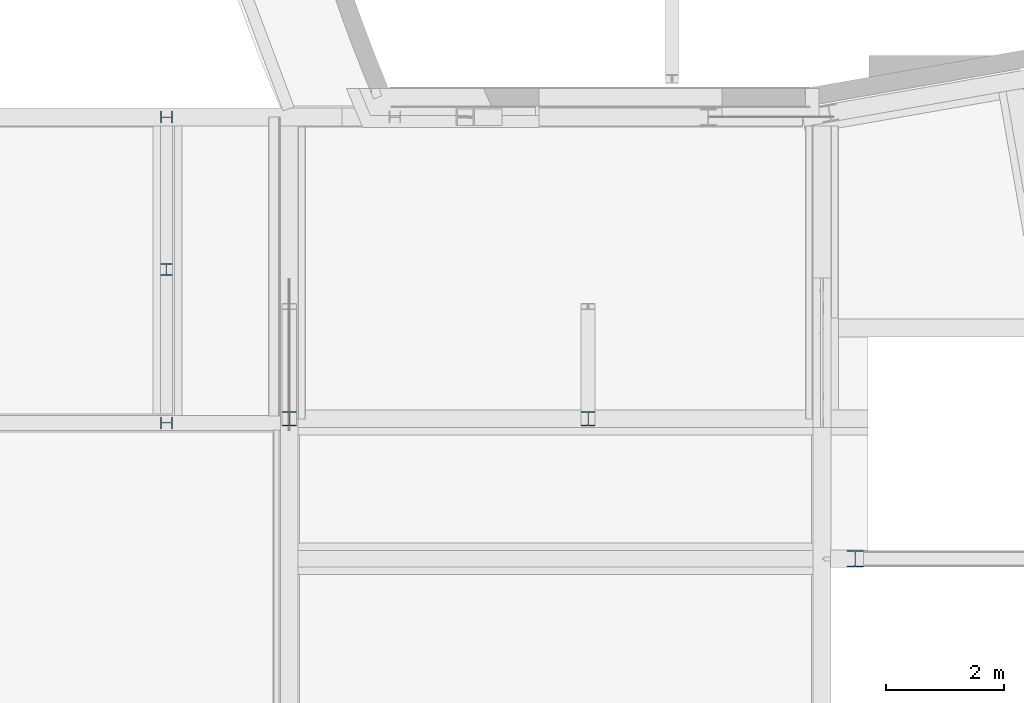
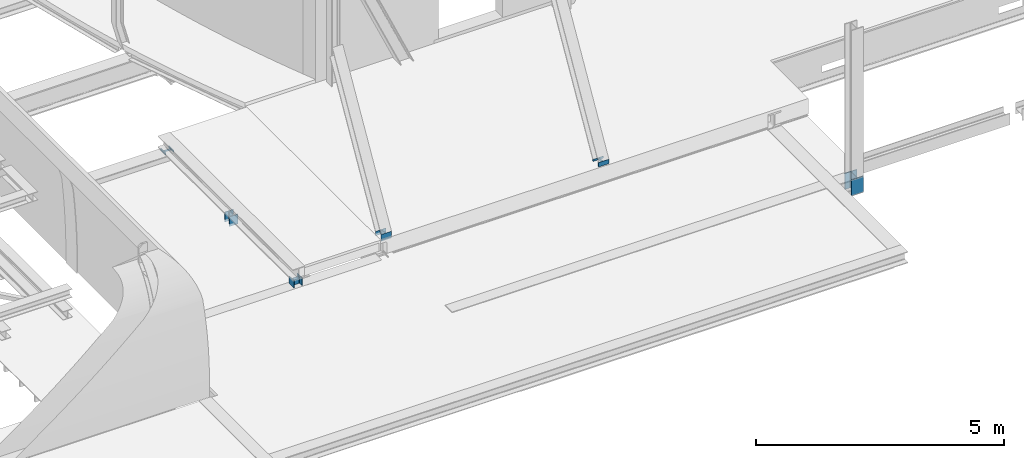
# One storey, part 8 of 38: 6 columns.
"""IFC2X3 building model written with IfcOpenShell, lengths in millimetres."""

from ifc_helpers import new_model, entity, si_unit, converted_unit, derived_unit, direction, frame, frame_2d, origin, place, context, subcontext, project, spatial, polyline, circle_curve, parameter, trimmed, segment, composite_curve, i_section, outline, extrude, clip, halfspace, source, transform, mapped, material, type_object, type_shapes, element, save


model = new_model("IFC2X3")

# Units and contexts
model_context = context("Model", 3, precision=0.01, world=origin(), true_north=direction((6.12303176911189e-17, 1.0)))
body_context = subcontext(model_context, "Body", "Model", "MODEL_VIEW")
ifc_project = project(units=[si_unit("LENGTHUNIT", "METRE", prefix="MILLI"), si_unit("AREAUNIT", "SQUARE_METRE", prefix="MILLI"), si_unit("VOLUMEUNIT", "CUBIC_METRE"), converted_unit("PLANEANGLEUNIT", "DEGREE", entity("IfcRatioMeasure", 0.0174532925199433), si_unit("PLANEANGLEUNIT", "RADIAN"), dimensions=[0, 0, 0, 0, 0, 0, 0]), si_unit("MASSUNIT", "GRAM", prefix="KILO"), derived_unit("MASSDENSITYUNIT", [(si_unit("MASSUNIT", "GRAM", prefix="KILO"), 1), (si_unit("LENGTHUNIT", "METRE"), -3)]), derived_unit("MOMENTOFINERTIAUNIT", [(si_unit("LENGTHUNIT", "METRE"), 4)]), si_unit("TIMEUNIT", "SECOND"), si_unit("FREQUENCYUNIT", "HERTZ"), si_unit("THERMODYNAMICTEMPERATUREUNIT", "DEGREE_CELSIUS"), derived_unit("THERMALTRANSMITTANCEUNIT", [(si_unit("MASSUNIT", "GRAM", prefix="KILO"), 1), (si_unit("THERMODYNAMICTEMPERATUREUNIT", "KELVIN"), -1), (si_unit("TIMEUNIT", "SECOND"), -3)]), derived_unit("VOLUMETRICFLOWRATEUNIT", [(si_unit("LENGTHUNIT", "METRE"), 3), (si_unit("TIMEUNIT", "SECOND"), -1)]), si_unit("ELECTRICCURRENTUNIT", "AMPERE"), si_unit("ELECTRICVOLTAGEUNIT", "VOLT"), si_unit("POWERUNIT", "WATT"), si_unit("FORCEUNIT", "NEWTON", prefix="KILO"), si_unit("ILLUMINANCEUNIT", "LUX"), si_unit("LUMINOUSFLUXUNIT", "LUMEN"), si_unit("LUMINOUSINTENSITYUNIT", "CANDELA"), derived_unit("USERDEFINED", [(si_unit("MASSUNIT", "GRAM", prefix="KILO"), -1), (si_unit("LENGTHUNIT", "METRE"), -2), (si_unit("TIMEUNIT", "SECOND"), 3), (si_unit("LUMINOUSFLUXUNIT", "LUMEN"), 1)]), derived_unit("LINEARVELOCITYUNIT", [(si_unit("LENGTHUNIT", "METRE"), 1), (si_unit("TIMEUNIT", "SECOND"), -1)]), si_unit("PRESSUREUNIT", "PASCAL"), derived_unit("USERDEFINED", [(si_unit("LENGTHUNIT", "METRE"), -2), (si_unit("MASSUNIT", "GRAM", prefix="KILO"), 1), (si_unit("TIMEUNIT", "SECOND"), -2)]), derived_unit("LINEARFORCEUNIT", [(si_unit("MASSUNIT", "GRAM", prefix="KILO"), 1), (si_unit("LENGTHUNIT", "METRE"), 1), (si_unit("TIMEUNIT", "SECOND"), -2), (si_unit("LENGTHUNIT", "METRE"), -1)]), derived_unit("PLANARFORCEUNIT", [(si_unit("MASSUNIT", "GRAM", prefix="KILO"), 1), (si_unit("LENGTHUNIT", "METRE"), 1), (si_unit("TIMEUNIT", "SECOND"), -2), (si_unit("LENGTHUNIT", "METRE"), -2)])], contexts=[model_context])

# Site, building, storey
site_placement = place(None, origin())
site = spatial("IfcSite", under=ifc_project, at=site_placement, Name="Theater aan de Parade", CompositionType="ELEMENT")
building_placement = place(site_placement, origin())
building = spatial("IfcBuilding", under=site, at=building_placement, Name="Theater aan de Parade", CompositionType="ELEMENT")
storey_placement = place(building_placement, frame((0.0, 0.0, 12480.0)))
storey = spatial("IfcBuildingStorey", under=building, at=storey_placement, Name="03 derde verdieping", CompositionType="ELEMENT", Elevation=12480.0)

# Columns
ifc_material = material(Name="00_PBT_MAT_staal_S355")
column_type_1 = type_object("IfcColumnType", Name="28_PBT_SC_staal_H-profiel:S355_HE200B", PredefinedType="COLUMN", material=ifc_material)
shared_shape_1 = source(origin(), body_context, "Body", "SweptSolid", [
    extrude(i_section(OverallWidth=199.999999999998, OverallDepth=200.000000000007, WebThickness=9.00000000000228, FlangeThickness=14.9999999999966, FilletRadius=17.9999999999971, at=frame_2d((-6.50146603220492e-12, 0.0), x_axis=(1.0, 0.0))), frame((40762.74392317, 20445.0, 12275.0), z_axis=(0.0, 0.0, 1.0), x_axis=(0.0, -1.0, 0.0)), (0.0, 0.0, 1.0), 44.9999999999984),
])
type_shapes(column_type_1, [shared_shape_1])
column_1_placement = place(storey_placement, frame((0.0, 0.0, -12480.0)))
element("IfcColumn", 1, at=column_1_placement, inside=storey, type_object=column_type_1, material=ifc_material, Name="28_PBT_SC_staal_H-profiel:S355_HE200B", ObjectType="28_PBT_SC_staal_H-profiel:S355_HE200B", context=body_context, shape_type="MappedRepresentation", body=[
    mapped(shared_shape_1, transform((0.0, 0.0, 0.0), scale=1.0)),
])
column_type_2 = type_object("IfcColumnType", Name="28_PBT_SC_staal_H-profiel:S355_HE200B", PredefinedType="COLUMN", material=ifc_material)
shared_shape_2 = source(origin(), body_context, "Body", "SweptSolid", [
    extrude(i_section(OverallWidth=200.0, OverallDepth=200.000000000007, WebThickness=9.00000000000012, FlangeThickness=14.9999999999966, FilletRadius=17.9999999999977, at=frame_2d((3.24718030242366e-12, 0.0), x_axis=(1.0, 0.0))), frame((40762.74392317, 15259.4841107, 12140.0), z_axis=(0.0, 0.0, 1.0), x_axis=(0.0, -1.0, 0.0)), (0.0, 0.0, 1.0), 180.0),
])
type_shapes(column_type_2, [shared_shape_2])
column_2_placement = place(storey_placement, frame((0.0, 0.0, -12480.0)))
element("IfcColumn", 2, at=column_2_placement, inside=storey, type_object=column_type_2, material=ifc_material, Name="28_PBT_SC_staal_H-profiel:S355_HE200B", ObjectType="28_PBT_SC_staal_H-profiel:S355_HE200B", context=body_context, shape_type="MappedRepresentation", body=[
    mapped(shared_shape_2, transform((0.0, 0.0, 0.0), scale=1.0)),
])
column_type_3 = type_object("IfcColumnType", Name="28_PBT_SC_staal_H-profiel:S355_HE240B", PredefinedType="COLUMN", material=ifc_material)
shared_shape_3 = source(origin(), body_context, "Body", "Clipping", [
    clip(extrude(outline(composite_curve([segment(polyline([(103.0, -120.0), (120.0, -120.0)]), True, "CONTINUOUS"), segment(polyline([(120.0, -120.0), (120.0, 120.0)]), True, "CONTINUOUS"), segment(polyline([(120.0, 120.0), (103.0, 120.0)]), True, "CONTINUOUS"), segment(polyline([(103.0, 120.0), (103.0, 26.0)]), True, "CONTINUOUS"), segment(trimmed(circle_curve(frame_2d((82.0, 26.0), x_axis=(1.0, 0.0)), 21.0000000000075), [parameter(270.000000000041)], [parameter(0.0)], True, "PARAMETER"), False, "CONTINUOUS"), segment(polyline([(82.0, 5.0), (-82.0, 5.0)]), True, "CONTINUOUS"), segment(trimmed(circle_curve(frame_2d((-82.0, 26.0), x_axis=(0.0, -1.0)), 21.0000000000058), [parameter(270.000000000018)], [parameter(0.0)], True, "PARAMETER"), False, "CONTINUOUS"), segment(polyline([(-103.0, 26.0), (-103.0, 120.0)]), True, "CONTINUOUS"), segment(polyline([(-103.0, 120.0), (-120.0, 120.0)]), True, "CONTINUOUS"), segment(polyline([(-120.0, 120.0), (-120.0, -120.0)]), True, "CONTINUOUS"), segment(polyline([(-120.0, -120.0), (-103.0, -120.0)]), True, "CONTINUOUS"), segment(polyline([(-103.0, -120.0), (-103.0, -26.0)]), True, "CONTINUOUS"), segment(trimmed(circle_curve(frame_2d((-82.0, -26.0), x_axis=(-1.0, 0.0)), 21.0000000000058), [parameter(270.000000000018)], [parameter(0.0)], True, "PARAMETER"), False, "CONTINUOUS"), segment(polyline([(-82.0, -5.0), (82.0, -5.0)]), True, "CONTINUOUS"), segment(trimmed(circle_curve(frame_2d((82.0, -26.0), x_axis=(0.0, 1.0)), 21.0000000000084), [parameter(270.000000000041)], [parameter(0.0)], True, "PARAMETER"), False, "CONTINUOUS"), segment(polyline([(103.0, -26.0), (103.0, -120.0)]), True, "CONTINUOUS")], self_intersect=False)), frame((47911.2389750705, 15329.4841107, 12600.0), z_axis=(0.0, 0.0, 1.0), x_axis=(0.0, -1.0, 0.0)), (0.0, 0.0, 1.0), 106.243494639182), halfspace(frame((48435.3055298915, 15209.4841107, 12706.2434946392), z_axis=(0.0, 0.25881904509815, 0.965925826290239), x_axis=(0.0, -0.965925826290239, 0.25881904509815)), False)),
])
type_shapes(column_type_3, [shared_shape_3])
column_3_placement = place(storey_placement, frame((0.0, 0.0, -12480.0)))
element("IfcColumn", 3, at=column_3_placement, inside=storey, type_object=column_type_3, material=ifc_material, Name="28_PBT_SC_staal_H-profiel:S355_HE240B", ObjectType="28_PBT_SC_staal_H-profiel:S355_HE240B", context=body_context, shape_type="MappedRepresentation", body=[
    mapped(shared_shape_3, transform((0.0, 0.0, 0.0), scale=1.0)),
])
column_type_4 = type_object("IfcColumnType", Name="28_PBT_SC_staal_H-profiel:S355_HE280B", PredefinedType="COLUMN", material=ifc_material)
shared_shape_4 = source(origin(), body_context, "Body", "SweptSolid", [
    extrude(outline(composite_curve([segment(polyline([(122.0, -140.0), (140.0, -140.0)]), True, "CONTINUOUS"), segment(polyline([(140.0, -140.0), (140.0, 140.0)]), True, "CONTINUOUS"), segment(polyline([(140.0, 140.0), (122.0, 140.0)]), True, "CONTINUOUS"), segment(polyline([(122.0, 140.0), (122.0, 29.25)]), True, "CONTINUOUS"), segment(trimmed(circle_curve(frame_2d((98.0, 29.2500000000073), x_axis=(1.0, 0.0)), 24.0000000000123), [parameter(270.000000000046)], [parameter(0.0)], True, "PARAMETER"), False, "CONTINUOUS"), segment(polyline([(98.0, 5.24999999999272), (-98.0, 5.24999999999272)]), True, "CONTINUOUS"), segment(trimmed(circle_curve(frame_2d((-98.0, 29.2500000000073), x_axis=(0.0, -1.0)), 24.0000000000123), [parameter(270.000000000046)], [parameter(0.0)], True, "PARAMETER"), False, "CONTINUOUS"), segment(polyline([(-122.0, 29.25), (-122.0, 140.0)]), True, "CONTINUOUS"), segment(polyline([(-122.0, 140.0), (-140.0, 140.0)]), True, "CONTINUOUS"), segment(polyline([(-140.0, 140.0), (-140.0, -140.0)]), True, "CONTINUOUS"), segment(polyline([(-140.0, -140.0), (-122.0, -140.0)]), True, "CONTINUOUS"), segment(polyline([(-122.0, -140.0), (-122.0, -29.2500000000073)]), True, "CONTINUOUS"), segment(trimmed(circle_curve(frame_2d((-98.0, -29.2500000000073), x_axis=(-1.0, 0.0)), 24.0000000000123), [parameter(270.000000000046)], [parameter(0.0)], True, "PARAMETER"), False, "CONTINUOUS"), segment(polyline([(-98.0, -5.25000000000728), (98.0, -5.25000000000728)]), True, "CONTINUOUS"), segment(trimmed(circle_curve(frame_2d((98.0, -29.2500000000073), x_axis=(0.0, 1.0)), 24.0000000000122), [parameter(270.000000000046)], [parameter(0.0)], True, "PARAMETER"), False, "CONTINUOUS"), segment(polyline([(122.0, -29.25), (122.0, -140.0)]), True, "CONTINUOUS")], self_intersect=False)), frame((52439.5687867, 12955.0, 11755.0), z_axis=(0.0, 0.0, 1.0), x_axis=(0.0, -1.0, 0.0)), (0.0, 0.0, 1.0), 400.0),
])
type_shapes(column_type_4, [shared_shape_4])
column_4_placement = place(storey_placement, frame((0.0, 0.0, -12480.0)))
element("IfcColumn", 4, at=column_4_placement, inside=storey, type_object=column_type_4, material=ifc_material, Name="28_PBT_SC_staal_H-profiel:S355_HE280B", ObjectType="28_PBT_SC_staal_H-profiel:S355_HE280B", context=body_context, shape_type="MappedRepresentation", body=[
    mapped(shared_shape_4, transform((0.0, 0.0, 0.0), scale=1.0)),
])
column_type_5 = type_object("IfcColumnType", Name="28_PBT_SC_staal_H-profiel:S355_HE200B", PredefinedType="COLUMN", material=ifc_material)
shared_shape_5 = source(origin(), body_context, "Body", "SweptSolid", [
    extrude(outline(composite_curve([segment(polyline([(85.0, -100.0), (100.0, -100.0)]), True, "CONTINUOUS"), segment(polyline([(100.0, -100.0), (100.0, 100.0)]), True, "CONTINUOUS"), segment(polyline([(100.0, 100.0), (85.0, 100.0)]), True, "CONTINUOUS"), segment(polyline([(85.0, 100.0), (85.0, 22.5)]), True, "CONTINUOUS"), segment(trimmed(circle_curve(frame_2d((67.0, 22.5), x_axis=(1.0, 0.0)), 17.9999999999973), [parameter(269.999999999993)], [parameter(0.0)], True, "PARAMETER"), False, "CONTINUOUS"), segment(polyline([(67.0, 4.50000000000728), (-67.0, 4.50000000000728)]), True, "CONTINUOUS"), segment(trimmed(circle_curve(frame_2d((-67.0, 22.5), x_axis=(0.0, -1.0)), 17.9999999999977), [parameter(269.999999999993)], [parameter(0.0)], True, "PARAMETER"), False, "CONTINUOUS"), segment(polyline([(-85.0, 22.5), (-85.0, 100.0)]), True, "CONTINUOUS"), segment(polyline([(-85.0, 100.0), (-100.0, 100.0)]), True, "CONTINUOUS"), segment(polyline([(-100.0, 100.0), (-100.0, -100.0)]), True, "CONTINUOUS"), segment(polyline([(-100.0, -100.0), (-85.0, -100.0)]), True, "CONTINUOUS"), segment(polyline([(-85.0, -100.0), (-85.0, -22.5)]), True, "CONTINUOUS"), segment(trimmed(circle_curve(frame_2d((-67.0, -22.5), x_axis=(-1.0, 0.0)), 17.9999999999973), [parameter(269.999999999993)], [parameter(0.0)], True, "PARAMETER"), False, "CONTINUOUS"), segment(polyline([(-67.0, -4.49999999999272), (67.0, -4.49999999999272)]), True, "CONTINUOUS"), segment(trimmed(circle_curve(frame_2d((67.0, -22.5), x_axis=(0.0, 1.0)), 17.9999999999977), [parameter(269.999999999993)], [parameter(0.0)], True, "PARAMETER"), False, "CONTINUOUS"), segment(polyline([(85.0, -22.5), (85.0, -100.0)]), True, "CONTINUOUS")], self_intersect=False)), frame((40762.74392317, 17859.4841107, 12080.0), z_axis=(0.0, 0.0, 1.0), x_axis=(0.0, -1.0, 0.0)), (0.0, 0.0, 1.0), 239.999999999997),
])
type_shapes(column_type_5, [shared_shape_5])
column_5_placement = place(storey_placement, frame((0.0, 0.0, -12480.0)))
element("IfcColumn", 5, at=column_5_placement, inside=storey, type_object=column_type_5, material=ifc_material, Name="28_PBT_SC_staal_H-profiel:S355_HE200B", ObjectType="28_PBT_SC_staal_H-profiel:S355_HE200B", context=body_context, shape_type="MappedRepresentation", body=[
    mapped(shared_shape_5, transform((0.0, 0.0, 0.0), scale=1.0)),
])
column_type_6 = type_object("IfcColumnType", Name="28_PBT_SC_staal_H-profiel:S355_HE240B", PredefinedType="COLUMN", material=ifc_material)
shared_shape_6 = source(origin(), body_context, "Body", "Clipping", [
    clip(extrude(outline(composite_curve([segment(polyline([(103.0, -120.0), (120.0, -120.0)]), True, "CONTINUOUS"), segment(polyline([(120.0, -120.0), (120.0, 120.0)]), True, "CONTINUOUS"), segment(polyline([(120.0, 120.0), (103.0, 120.0)]), True, "CONTINUOUS"), segment(polyline([(103.0, 120.0), (103.0, 26.0)]), True, "CONTINUOUS"), segment(trimmed(circle_curve(frame_2d((82.0, 26.0), x_axis=(1.0, 0.0)), 21.0000000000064), [parameter(269.999999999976)], [parameter(0.0)], True, "PARAMETER"), False, "CONTINUOUS"), segment(polyline([(82.0, 5.0), (-82.0, 5.0)]), True, "CONTINUOUS"), segment(trimmed(circle_curve(frame_2d((-82.0, 26.0), x_axis=(0.0, -1.0)), 21.0000000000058), [parameter(270.000000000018)], [parameter(0.0)], True, "PARAMETER"), False, "CONTINUOUS"), segment(polyline([(-103.0, 26.0), (-103.0, 120.0)]), True, "CONTINUOUS"), segment(polyline([(-103.0, 120.0), (-120.0, 120.0)]), True, "CONTINUOUS"), segment(polyline([(-120.0, 120.0), (-120.0, -120.0)]), True, "CONTINUOUS"), segment(polyline([(-120.0, -120.0), (-103.0, -120.0)]), True, "CONTINUOUS"), segment(polyline([(-103.0, -120.0), (-103.0, -26.0)]), True, "CONTINUOUS"), segment(trimmed(circle_curve(frame_2d((-82.0, -26.0), x_axis=(-1.0, 0.0)), 21.0000000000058), [parameter(270.000000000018)], [parameter(0.0)], True, "PARAMETER"), False, "CONTINUOUS"), segment(polyline([(-82.0, -5.0), (82.0, -5.0)]), True, "CONTINUOUS"), segment(trimmed(circle_curve(frame_2d((82.0, -26.0), x_axis=(0.0, 1.0)), 21.0000000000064), [parameter(269.999999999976)], [parameter(0.0)], True, "PARAMETER"), False, "CONTINUOUS"), segment(polyline([(103.0, -26.0), (103.0, -120.0)]), True, "CONTINUOUS")], self_intersect=False)), frame((42844.9091634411, 15329.4841107, 12540.0), z_axis=(0.0, 0.0, 1.0), x_axis=(0.0, -1.0, 0.0)), (0.0, 0.0, 1.0), 166.243494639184), halfspace(frame((48435.3055298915, 15209.4841107, 12706.2434946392), z_axis=(0.0, 0.25881904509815, 0.965925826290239), x_axis=(0.0, -0.965925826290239, 0.25881904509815)), False)),
])
type_shapes(column_type_6, [shared_shape_6])
column_6_placement = place(storey_placement, frame((0.0, 0.0, -12480.0)))
element("IfcColumn", 6, at=column_6_placement, inside=storey, type_object=column_type_6, material=ifc_material, Name="28_PBT_SC_staal_H-profiel:S355_HE240B", ObjectType="28_PBT_SC_staal_H-profiel:S355_HE240B", context=body_context, shape_type="MappedRepresentation", body=[
    mapped(shared_shape_6, transform((0.0, 0.0, 0.0), scale=1.0)),
])

save(model, "model.ifc")
